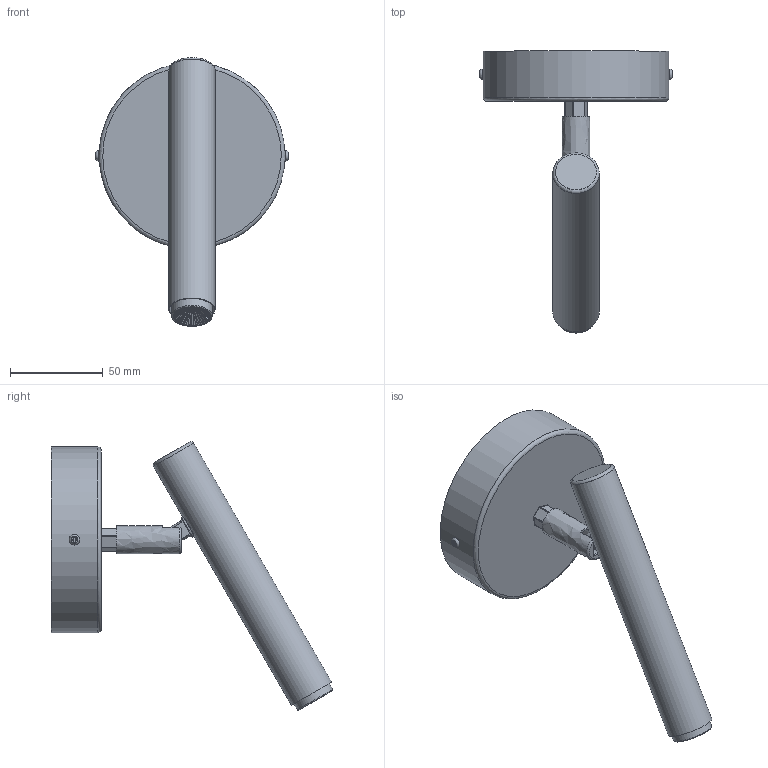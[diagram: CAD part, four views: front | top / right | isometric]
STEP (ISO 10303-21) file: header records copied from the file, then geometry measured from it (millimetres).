
FILE_DESCRIPTION ((), '1');
FILE_NAME ('G:\_Liczy się słowo\_Modelowanie SIGMA\SOPEL kinkiet\gotowe\SOPEL.stp', '2024-11-18T11:21:30', ('Unknown'), ('Unknown'), 'HarmonyWare STEP v2.1.4', 'HarmonyWare Translators', '');
FILE_SCHEMA (('CONFIG_CONTROL_DESIGN'));
Length unit declared in the file: centimetre
Products named in the file (11): podsufitka; żarówka; Part 2; klosz; Part 9
Assembly tree (10 placements, depth 2):
  (unnamed)
    podsufitka
    podsufitka
    żarówka
    Part 2
    żarówka
    podsufitka
    klosz
    podsufitka
    podsufitka
    Part 9
Bounding box: 103.9 x 151.56 x 144.54 mm (x, y, z)
Volume: 234272.4 mm3; surface area: 58077.1 mm2
Topology: 9 solids, 10 shells, 476 faces, 1207 edges, 736 vertices
Faces by surface type: bspline 476
Entity records: 27949 total; most frequent: CARTESIAN_POINT 19839, ORIENTED_EDGE 2250, EDGE_CURVE 1187, B_SPLINE_CURVE_WITH_KNOTS 757, VERTEX_POINT 733, EDGE_LOOP 484, FACE_OUTER_BOUND 476, ADVANCED_FACE 476
